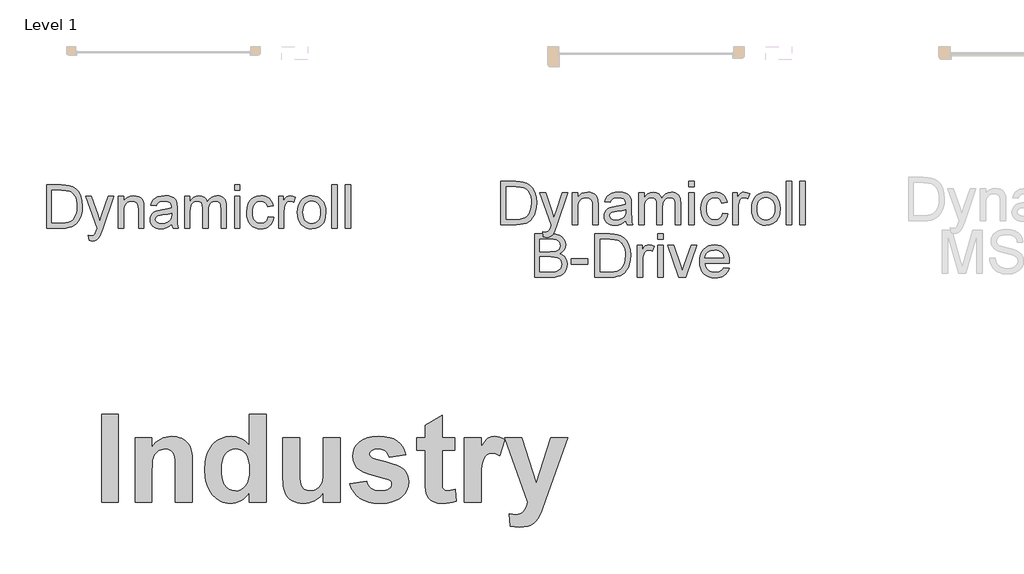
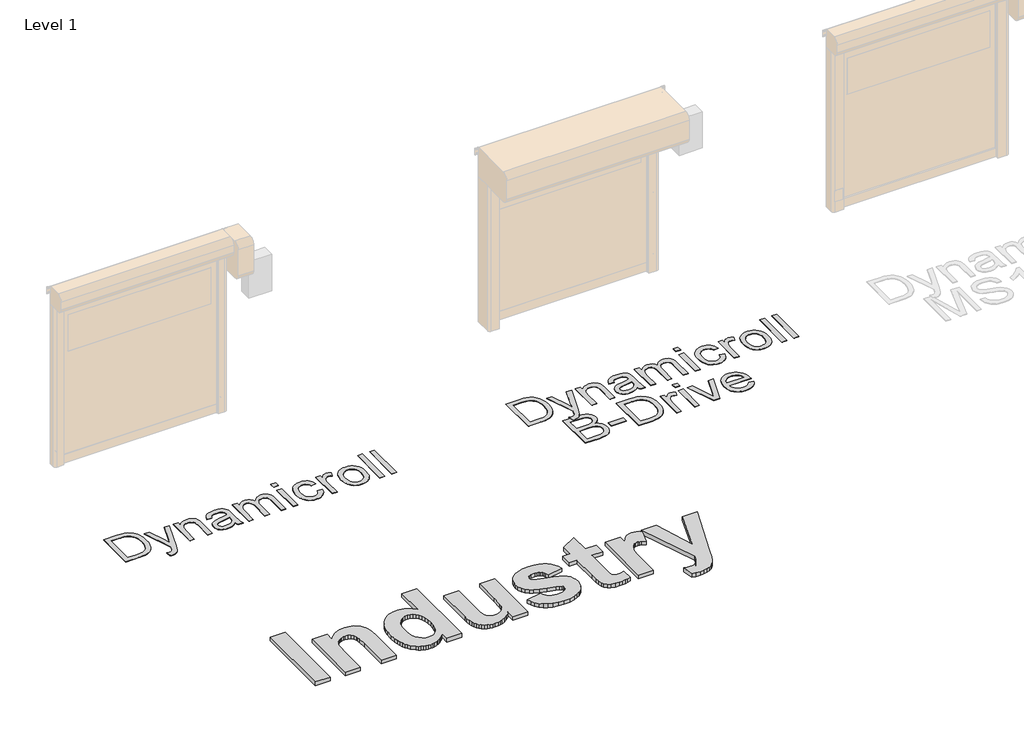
# One storey, part 6 of 18: 3 proxies.
"""IFC4 building model written with IfcOpenShell, lengths in millimetres."""

import ifcopenshell
import ifcopenshell.guid

model = None  # the IFC model being written
_history = None  # IfcOwnerHistory: only IFC2X3 demands one
_inside = {}  # id of a spatial element -> (the spatial element, [elements in it])
_under = {}  # id of a project, library or spatial element -> (it, [spatial elements below it])
_declared = {}  # id of a project -> (the project, [libraries it declares])
_typed = {}  # id of a type object -> (the type object, [elements of that type])
_made_of = {}  # id of a material, layer set ... -> (it, [elements and type objects made of it])


def new_model(schema):
    """Start an empty IFC model of exactly this schema.

    Asked for "IFC4X3", IfcOpenShell would pick the latest addendum, in which some entities
    have other attributes; the version numbers below select the first issue.
    IFC2X3 requires an IfcOwnerHistory on every rooted entity: one is made here for all.
    """
    global model, _history
    if schema == "IFC4X3":
        model = ifcopenshell.file(schema_version=(4, 3, 0, 0))
    else:
        model = ifcopenshell.file(schema=schema)
    _inside.clear()
    _under.clear()
    _declared.clear()
    _typed.clear()
    _made_of.clear()
    _history = None
    if model.schema == "IFC2X3":
        org = make("IfcOrganization", Name="unknown")
        user = make(
            "IfcPersonAndOrganization",
            ThePerson=make("IfcPerson", FamilyName="unknown"),
            TheOrganization=org,
        )
        app = make(
            "IfcApplication",
            ApplicationDeveloper=org,
            Version="unknown",
            ApplicationFullName="unknown",
            ApplicationIdentifier="unknown",
        )
        _history = make(
            "IfcOwnerHistory",
            OwningUser=user,
            OwningApplication=app,
            ChangeAction="ADDED",
            CreationDate=0,
        )
    return model


def make(cls, **values):
    """One entity of the class cls with the attributes given. An attribute that is None is left unset."""
    return model.create_entity(
        cls, **{name: value for name, value in values.items() if value is not None}
    )


def rooted(cls, **values):
    """An entity with a GlobalId (a new one), such as an element, a storey or a relation."""
    return make(cls, GlobalId=ifcopenshell.guid.new(), OwnerHistory=_history, **values)


def si_unit(unit_type, name, prefix=None):
    """IfcSIUnit, for example si_unit("LENGTHUNIT", "METRE", prefix="MILLI")."""
    return make("IfcSIUnit", UnitType=unit_type, Prefix=prefix, Name=name)


def assignment(units):
    """IfcUnitAssignment: the units of a project."""
    return None if units is None else make("IfcUnitAssignment", Units=units)


def point(xyz):
    """IfcCartesianPoint."""
    return None if xyz is None else make("IfcCartesianPoint", Coordinates=xyz)


def direction(xyz):
    """IfcDirection."""
    return None if xyz is None else make("IfcDirection", DirectionRatios=xyz)


def frame(location, z_axis=None, x_axis=None):
    """IfcAxis2Placement3D, a coordinate frame: its origin and axes. An axis left out is left unset."""
    return make(
        "IfcAxis2Placement3D",
        Location=point(location),
        Axis=direction(z_axis),
        RefDirection=direction(x_axis),
    )


def origin():
    """The frame at (0, 0, 0) with its axes left unset."""
    return frame((0.0, 0.0, 0.0))


def origin_with_axes():
    """The frame at (0, 0, 0) with the z axis (0, 0, 1) and the x axis (1, 0, 0) written out."""
    return frame((0.0, 0.0, 0.0), z_axis=(0.0, 0.0, 1.0), x_axis=(1.0, 0.0, 0.0))


def place(relative_to, where):
    """IfcLocalPlacement: puts the frame where relative to a parent placement (None: the world)."""
    return make(
        "IfcLocalPlacement", PlacementRelTo=relative_to, RelativePlacement=where
    )


def context(
    kind, dimensions, precision=None, world=None, true_north=None, identifier=None
):
    """IfcGeometricRepresentationContext, for example the 3D "Model" context."""
    return make(
        "IfcGeometricRepresentationContext",
        ContextIdentifier=identifier,
        ContextType=kind,
        CoordinateSpaceDimension=dimensions,
        Precision=precision,
        WorldCoordinateSystem=world,
        TrueNorth=true_north,
    )


def project(units=None, contexts=None):
    """IfcProject with its units and contexts."""
    return rooted(
        "IfcProject",
        Name="project",
        RepresentationContexts=contexts,
        UnitsInContext=assignment(units),
    )


def spatial(cls, under=None, at=None, **own):
    """A site, building, storey or space (cls), placed at a placement, below another one or the project."""
    s = rooted(cls, ObjectPlacement=at, **own)
    if under is not None:
        _under.setdefault(under.id(), (under, []))[1].append(s)
    return s


def polyline(points):
    """IfcPolyline through the points."""
    return make("IfcPolyline", Points=[point(p) for p in points])


def outline(outer, holes=None, kind="AREA"):
    """IfcArbitraryClosedProfileDef: a profile drawn as a closed curve; with holes, ...WithVoids."""
    if holes is None:
        return make("IfcArbitraryClosedProfileDef", ProfileType=kind, OuterCurve=outer)
    return make(
        "IfcArbitraryProfileDefWithVoids",
        ProfileType=kind,
        OuterCurve=outer,
        InnerCurves=holes,
    )


def extrude(swept, where, along, depth):
    """IfcExtrudedAreaSolid: the profile swept, set in the frame where, extruded along a direction by depth."""
    return make(
        "IfcExtrudedAreaSolid",
        SweptArea=swept,
        Position=where,
        ExtrudedDirection=direction(along),
        Depth=depth,
    )


def shape(context_of_items, identifier, shape_type, items):
    """IfcShapeRepresentation: the items that make up one representation, for example the "Body"."""
    return make(
        "IfcShapeRepresentation",
        ContextOfItems=context_of_items,
        RepresentationIdentifier=identifier,
        RepresentationType=shape_type,
        Items=items,
    )


def made_of(thing, what):
    """Note that an element or type object is made of a material, layer set ...; save() writes the relation."""
    if what is not None:
        _made_of.setdefault(what.id(), (what, []))[1].append(thing)
    return thing


def element(
    cls,
    number,
    at=None,
    inside=None,
    cuts=None,
    type_object=None,
    material=None,
    context=None,
    identifier="Body",
    shape_type=None,
    held_by="IfcProductDefinitionShape",
    body=None,
    shapes=None,
    **own,
):
    """One element of the class cls, such as IfcWall. Its Tag is "e" and its number.

    at: its placement. inside: the storey or other place that contains it. cuts: it is an
    opening in that element (IfcRelVoidsElement). A single representation is given by context,
    identifier, shape_type and body (its items); several are given by shapes. held_by: the class
    of the entity that holds the representations. save() writes the other relations.
    """
    e = rooted(cls, Tag="e%d" % number, ObjectPlacement=at, **own)
    if body is not None:
        shapes = [shape(context, identifier, shape_type, body)]
    if shapes is not None:
        e.Representation = make(held_by, Representations=shapes)
    if inside is not None:
        _inside.setdefault(inside.id(), (inside, []))[1].append(e)
    if cuts is not None:
        rooted(
            "IfcRelVoidsElement", RelatingBuildingElement=cuts, RelatedOpeningElement=e
        )
    if type_object is not None:
        _typed.setdefault(type_object.id(), (type_object, []))[1].append(e)
    return made_of(e, material)


def aggregate(whole, parts):
    """IfcRelAggregates: a whole, such as a stair, and the parts it consists of."""
    return rooted("IfcRelAggregates", RelatingObject=whole, RelatedObjects=parts)


def save(model, path):
    """Write the relations noted so far, then the file.

    IfcRelAggregates (storeys below a building ...), IfcRelContainedInSpatialStructure (elements
    in a storey), IfcRelDefinesByType, IfcRelAssociatesMaterial and IfcRelDeclares: one each for
    every whole, place, type object, material and project.
    """
    for whole, parts in _under.values():
        aggregate(whole, parts)
    for where, things in _inside.values():
        rooted(
            "IfcRelContainedInSpatialStructure",
            RelatedElements=things,
            RelatingStructure=where,
        )
    for kind, things in _typed.values():
        rooted("IfcRelDefinesByType", RelatedObjects=things, RelatingType=kind)
    for what, things in _made_of.values():
        rooted("IfcRelAssociatesMaterial", RelatedObjects=things, RelatingMaterial=what)
    for by, libraries in _declared.values():
        rooted("IfcRelDeclares", RelatingContext=by, RelatedDefinitions=libraries)
    model.write(path)


model = new_model("IFC4")

# Units and contexts
model_context = context("Model", 3, world=origin())
ifc_project = project(units=[si_unit("LENGTHUNIT", "METRE", prefix="MILLI")], contexts=[model_context])

# Site, building, storey
site = spatial("IfcSite", under=ifc_project)
building = spatial("IfcBuilding", under=site)
storey = spatial("IfcBuildingStorey", under=building, Name="Level 1", Elevation=0.0)

# Proxies
placement = place(None, origin())
element("IfcBuildingElementProxy", 1, Name="1000", ObjectType="1000", at=placement, inside=storey, context=model_context, shape_type="SweptSolid", body=[
    extrude(outline(polyline([(770.1824605, 15939.6667942), (770.1824605, 16959.9261942), (964.5175843, 16959.9261942), (964.5175843, 15939.6667942), (770.1824605, 15939.6667942)])), origin_with_axes(), (0.0, 0.0, 1.0), 50.0),
    extrude(outline(polyline([(1822.8310478, 15939.6667942), (1628.495924, 15939.6667942), (1628.495924, 16322.5171097), (1625.4594377, 16422.7211579), (1621.6638298, 16456.6918485), (1616.3499787, 16479.9083168), (1600.3451655, 16511.6016426), (1576.6226162, 16535.3241919), (1546.3210132, 16550.1270627), (1510.579039, 16555.0613529), (1486.4215763, 16553.2979767), (1463.5451312, 16548.0078483), (1441.9497039, 16539.1909674), (1421.6352942, 16526.8473343), (1403.5112665, 16511.5858276), (1388.4869853, 16494.0153261), (1376.5624505, 16474.1358298), (1367.7376622, 16451.9473387), (1361.3721114, 16423.6621524), (1356.8252895, 16385.4925706), (1353.1878319, 16279.5002203), (1353.1878319, 15939.6667942), (1158.8527081, 15939.6667942), (1158.8527081, 16684.6181021), (1353.1878319, 16684.6181021), (1353.1878319, 16577.3289192), (1377.0250402, 16606.2704293), (1402.3567691, 16631.3530714), (1429.1830186, 16652.5768455), (1457.5037887, 16669.9417516), (1487.3190794, 16683.4477897), (1518.6288907, 16693.0949597), (1551.4332226, 16698.8832618), (1585.7320751, 16700.8126958), (1644.8170379, 16694.9295035), (1672.3668251, 16687.5755133), (1698.5881496, 16677.2799269), (1743.502843, 16650.5208913), (1761.31057, 16634.7216734), (1776.0185505, 16617.3093223), (1798.3177469, 16578.4359715), (1812.5829065, 16534.6915906), (1820.2690125, 16478.4849638), (1822.8310478, 16402.2248753), (1822.8310478, 15939.6667942)])), origin_with_axes(), (0.0, 0.0, 1.0), 50.0),
    extrude(outline(polyline([(2681.1445112, 15939.6667942), (2486.8093874, 15939.6667942), (2486.8093874, 16046.9559771), (2464.0752777, 16017.7060739), (2439.3959189, 15992.4573739), (2412.7713111, 15971.2098773), (2384.2014542, 15953.9635839), (2354.6036202, 15940.6236037), (2324.895081, 15931.0950464), (2295.0758365, 15925.377912), (2265.1458869, 15923.4722006), (2235.1388389, 15925.0853339), (2206.2269819, 15929.924734), (2178.410316, 15937.9904007), (2151.6888411, 15949.2823342), (2126.0625572, 15963.8005344), (2101.5314644, 15981.5450012), (2055.7548518, 16026.7127351), (2035.3238062, 16053.7999326), (2017.6169, 16083.441258), (2002.6341333, 16115.6367111), (1990.3755059, 16150.3862921), (1980.841018, 16187.6900008), (1974.0306695, 16227.5478374), (1968.5823906, 16314.9258939), (1974.0227619, 16403.7747486), (1980.8232261, 16443.9528395), (1990.3438759, 16481.3000396), (2002.5847113, 16515.8163489), (2017.5457324, 16547.5017672), (2035.2269391, 16576.3562947), (2055.6283315, 16602.3799312), (2078.1094007, 16625.4501104), (2102.0296379, 16645.4442657), (2127.3890431, 16662.3623971), (2154.1876163, 16676.2045046), (2182.4253575, 16686.9705883), (2212.1022666, 16694.660648), (2243.2183438, 16699.2746838), (2275.7735889, 16700.8126958), (2305.7509837, 16699.2193312), (2334.7004014, 16694.4392375), (2362.6218419, 16686.4724147), (2389.5153053, 16675.3188628), (2415.3807915, 16660.9785817), (2440.2183006, 16643.4515716), (2486.8093874, 16598.8373639), (2486.8093874, 16959.9261942), (2681.1445112, 16959.9261942), (2681.1445112, 15939.6667942)]), holes=[polyline([(2162.9175144, 16326.3127176), (2164.9418386, 16269.1888189), (2171.0148113, 16220.5417778), (2181.1364323, 16180.3715944), (2195.3067017, 16148.6782685), (2221.0377602, 16113.9168263), (2251.4184383, 16089.0872247), (2286.4487361, 16074.1894637), (2326.1286536, 16069.2235434), (2358.3913206, 16072.9479836), (2388.1235824, 16084.1213044), (2415.3254389, 16102.7435056), (2439.9968902, 16128.8145872), (2460.4773577, 16162.2871043), (2475.1062631, 16203.1136116), (2483.8836064, 16251.2941092), (2486.8093874, 16306.8285971), (2483.970589, 16368.2462772), (2475.4541938, 16420.4121631), (2461.2602019, 16463.3262548), (2441.3886131, 16496.9885522), (2417.073, 16522.3954025), (2389.5469353, 16540.5431527), (2358.810419, 16551.4318029), (2324.8634509, 16555.0613529), (2291.8416623, 16551.4713405), (2261.6033195, 16540.7013031), (2234.1484224, 16522.7512408), (2209.4769712, 16497.6211536), (2189.1072089, 16465.3743016), (2174.5573786, 16426.0739449), (2165.8274805, 16379.7200836), (2162.9175144, 16326.3127176)])]), origin_with_axes(), (0.0, 0.0, 1.0), 50.0),
    extrude(outline(polyline([(3345.1228509, 15939.6667942), (3345.1228509, 16048.9803013), (3324.254915, 16021.3119014), (3300.3663079, 15996.7590628), (3273.4570295, 15975.3217858), (3243.5270798, 15957.0000702), (3211.636066, 15942.3316272), (3178.8435954, 15931.854168), (3145.1496679, 15925.5676924), (3110.5542835, 15923.4722006), (3075.9035465, 15925.5281548), (3043.0557232, 15931.6960176), (3012.0108137, 15941.975789), (2982.768818, 15956.3674689), (2956.3893432, 15974.4835891), (2933.9319965, 15995.9366811), (2915.396778, 16020.7267451), (2900.7836876, 16048.8537811), (2889.7131646, 16081.5039164), (2881.8056482, 16119.8632786), (2877.0611383, 16163.9318677), (2875.479635, 16213.7096836), (2875.479635, 16684.6181021), (3069.8147588, 16684.6181021), (3069.8147588, 16340.2299465), (3072.4400543, 16212.7291516), (3080.3159407, 16146.527424), (3095.1820716, 16114.6443178), (3118.7781006, 16090.0993868), (3150.5030565, 16074.4425043), (3189.7559681, 16069.2235434), (3213.6603902, 16070.963197), (3236.2837947, 16076.1821579), (3257.6261816, 16084.8804259), (3277.6875508, 16097.0580012), (3295.5743529, 16111.8213344), (3310.3930387, 16128.2768761), (3322.1436081, 16146.4246263), (3330.8260612, 16166.264585), (3337.0809067, 16194.4232511), (3341.5486535, 16237.5271231), (3345.1228509, 16368.5704854), (3345.1228509, 16684.6181021), (3539.4579747, 16684.6181021), (3539.4579747, 15939.6667942), (3345.1228509, 15939.6667942)])), origin_with_axes(), (0.0, 0.0, 1.0), 50.0),
    extrude(outline(polyline([(3652.8201302, 16150.1965117), (3847.155254, 16182.585699), (3854.8176375, 16156.4276346), (3865.6588425, 16133.6223572), (3879.6788691, 16114.1698668), (3896.8777174, 16098.0701633), (3917.5242428, 16085.4497671), (3941.8873009, 16076.4351984), (3969.9668917, 16071.0264572), (4001.7630153, 16069.2235434), (4036.5402726, 16070.947382), (4066.7311703, 16076.1188977), (4092.3357085, 16084.7380906), (4113.3538872, 16096.8049607), (4124.4244102, 16107.2428824), (4132.3319266, 16119.3255675), (4137.0764365, 16133.053016), (4138.6579398, 16148.425228), (4135.3051528, 16168.5419498), (4125.2467919, 16184.8630637), (4102.2833642, 16198.2109514), (4061.7336199, 16210.4201568), (3957.3702181, 16235.8190996), (3874.0408099, 16260.1426201), (3811.7453955, 16283.3907184), (3770.4839747, 16305.5633945), (3733.1763122, 16338.6009981), (3706.5279818, 16377.4901639), (3690.5389836, 16422.2308919), (3685.2093175, 16472.823182), (3689.779862, 16519.1137832), (3703.4914955, 16561.5771465), (3726.344218, 16600.2132717), (3758.3380295, 16635.0221591), (3799.947381, 16663.8055189), (3851.6467234, 16684.3650616), (3913.4360568, 16696.7007872), (3985.3153811, 16700.8126958), (4053.7470283, 16697.4915389), (4112.784546, 16687.5280682), (4162.4279341, 16670.9222837), (4202.6771928, 16647.6741853), (4235.4617559, 16617.9102935), (4262.7110575, 16581.7571284), (4284.4250976, 16539.21469), (4300.6038763, 16490.2829783), (4106.2687525, 16457.893791), (4091.9719627, 16499.4556974), (4081.502411, 16516.108927), (4068.8187546, 16530.0103409), (4053.573063, 16540.9701586), (4035.4174052, 16548.7985999), (4014.3517815, 16553.4956647), (3990.3761916, 16555.0613529), (3935.0235766, 16549.7475019), (3914.2268084, 16543.1051881), (3898.0163997, 16533.8059487), (3884.1624309, 16516.3461525), (3879.5444413, 16494.3316267), (3884.1624309, 16475.2903272), (3898.0163997, 16459.1589936), (3918.0619539, 16448.5471066), (3953.4006448, 16435.9425254), (4069.957437, 16404.7552806), (4137.9699858, 16386.1409869), (4194.8645665, 16365.470739), (4240.6411792, 16342.7445367), (4275.2998237, 16317.9623803), (4300.5406161, 16289.1948355), (4318.5697536, 16255.27159), (4329.3872361, 16216.1926438), (4332.9930636, 16171.9579969), (4327.7661952, 16122.7653372), (4312.0855901, 16077.1626899), (4285.9512483, 16035.1500551), (4249.3631698, 15996.7274328), (4227.2003781, 15979.5582377), (4202.52695, 15964.6782687), (4145.6481843, 15941.7860086), (4078.7268727, 15928.0506526), (4001.7630153, 15923.4722006), (3931.2516913, 15927.2836235), (3868.5055484, 15938.7178922), (3813.5245867, 15957.7750068), (3766.3088061, 15984.4549673), (3726.7158713, 16017.6823513), (3694.6034471, 16056.3817367), (3669.9715334, 16100.5531235), (3652.8201302, 16150.1965117)])), origin_with_axes(), (0.0, 0.0, 1.0), 50.0),
    extrude(outline(polyline([(4867.414654, 16684.6181021), (4867.414654, 16538.8667593), (4721.6633112, 16538.8667593), (4721.6633112, 16219.2765752), (4722.7703635, 16142.5736658), (4726.0915204, 16106.2939804), (4733.3348054, 16091.6176299), (4746.2082422, 16079.7247252), (4763.6047783, 16071.8488389), (4784.4173615, 16069.2235434), (4822.8795215, 16073.9047931), (4875.5119508, 16087.9485423), (4883.6092477, 15949.7884152), (4847.2821172, 15938.2750713), (4808.6459919, 15930.0512542), (4767.7008718, 15925.116964), (4724.4467569, 15923.4722006), (4672.6999694, 15928.02693), (4626.2670329, 15941.6911184), (4588.3425841, 15962.5669618), (4562.1212596, 15988.7566562), (4544.8196137, 16022.7273468), (4533.6542005, 16066.9461787), (4528.9096906, 16119.7683884), (4527.3281874, 16208.3958326), (4527.3281874, 16538.8667593), (4430.1606255, 16538.8667593), (4430.1606255, 16684.6181021), (4527.3281874, 16684.6181021), (4527.3281874, 16830.369445), (4721.6633112, 16943.7316005), (4721.6633112, 16684.6181021), (4867.414654, 16684.6181021)])), origin_with_axes(), (0.0, 0.0, 1.0), 50.0),
    extrude(outline(polyline([(5175.1119334, 15939.6667942), (4980.7768096, 15939.6667942), (4980.7768096, 16684.6181021), (5175.1119334, 16684.6181021), (5175.1119334, 16580.8714865), (5216.1677587, 16641.8858833), (5235.0350929, 16662.9277845), (5252.7953748, 16677.6594877), (5289.6127713, 16695.0243937), (5331.2379378, 16700.8126958), (5361.8400264, 16698.2506604), (5391.9044038, 16690.5645545), (5421.4310702, 16677.7543779), (5450.4200254, 16659.8201306), (5393.7389476, 16474.8475062), (5346.9264504, 16498.5700555), (5324.8486645, 16504.5006929), (5303.6565205, 16506.477572), (5266.3014128, 16500.9423105), (5249.9723914, 16494.0232336), (5235.2090582, 16484.336526), (5221.9718757, 16471.0439908), (5210.2213063, 16453.3074315), (5191.1800067, 16404.5022401), (5184.1502246, 16367.7481037), (5179.1289517, 16315.1789345), (5175.1119334, 16162.5954974), (5175.1119334, 15939.6667942)])), origin_with_axes(), (0.0, 0.0, 1.0), 50.0),
    extrude(outline(polyline([(5450.4200254, 16684.6181021), (5644.7551492, 16684.6181021), (5814.7983825, 16157.2816464), (5984.8416159, 16684.6181021), (6179.1767397, 16684.6181021), (5927.148376, 15970.7907789), (5880.3358787, 15838.1975434), (5856.6449595, 15783.7305702), (5834.1559828, 15743.8134273), (5810.5915838, 15714.2709459), (5783.6743979, 15690.9279574), (5751.8229217, 15672.93045), (5713.455652, 15659.4244119), (5669.1419299, 15650.9791844), (5619.4510966, 15648.1641085), (5566.8186673, 15650.9475543), (5515.1984, 15659.2978916), (5499.0038064, 15803.2779508), (5539.6800709, 15796.2560762), (5576.1811667, 15793.9154514), (5605.7631857, 15796.4853942), (5631.2491111, 15804.1952227), (5652.6389431, 15817.0449369), (5669.9326815, 15835.0345368), (5696.8498675, 15881.7521439), (5716.6186585, 15939.6667942), (5450.4200254, 16684.6181021)])), origin_with_axes(), (0.0, 0.0, 1.0), 50.0),
])
element("IfcBuildingElementProxy", 2, Name="500mm", ObjectType="500mm", at=placement, inside=storey, context=model_context, shape_type="SweptSolid", body=[
    extrude(outline(polyline([(5402.5904997, 19157.9917402), (5402.5904997, 19660.2732909), (5575.8629195, 19660.2732909), (5627.6423103, 19658.4645378), (5665.5034989, 19653.0382784), (5705.5413228, 19639.0894194), (5739.3251526, 19617.1084702), (5757.9415144, 19599.1435661), (5774.0593444, 19578.8487427), (5787.6786424, 19556.224), (5798.7994085, 19531.269338), (5813.6066588, 19475.289961), (5818.5424089, 19411.8303169), (5815.2008142, 19357.9202762), (5805.1760298, 19310.4788272), (5789.908927, 19270.0884498), (5770.8403769, 19237.3316238), (5748.8900845, 19211.4725852), (5724.9777548, 19191.7755701), (5697.5245609, 19177.1675892), (5664.951676, 19166.5756534), (5627.1977862, 19160.1377185), (5584.201578, 19157.9917402), (5402.5904997, 19157.9917402)]), holes=[polyline([(5465.3756936, 19220.776934), (5576.4760561, 19220.776934), (5622.4306487, 19223.0455397), (5657.2874677, 19229.8513566), (5683.5910304, 19240.7958459), (5703.8858538, 19255.4804689), (5725.6981904, 19282.6577513), (5742.0842676, 19317.8364671), (5752.3389782, 19361.1699004), (5755.7572151, 19412.8113355), (5754.0825856, 19449.2623099), (5749.0586971, 19481.2373866), (5740.6855496, 19508.7365658), (5728.9631431, 19531.7598473), (5714.8418394, 19550.8283974), (5699.2720004, 19566.4633822), (5682.253626, 19578.6648017), (5663.7867163, 19587.4326559), (5627.6729671, 19594.9742368), (5574.7592735, 19597.4880971), (5465.3756936, 19597.4880971), (5465.3756936, 19220.776934)])]), origin_with_axes(), (0.0, 0.0, 1.0), 5.0),
    extrude(outline(polyline([(5897.0239012, 19016.725054), (5889.175752, 19077.1803286), (5921.0588583, 19071.6620987), (5937.8281459, 19073.3942097), (5950.8572999, 19078.5905429), (5961.0047116, 19086.8832162), (5969.1287723, 19097.9043476), (5986.2965987, 19144.1348517), (5991.201692, 19159.3406408), (5857.7831551, 19526.854754), (5924.0019142, 19526.854754), (5994.7578846, 19322.06711), (6019.4059783, 19240.1520524), (6044.054072, 19312.5021782), (6116.7720797, 19526.854754), (6182.5003295, 19526.854754), (6054.1095132, 19149.1625723), (6020.754879, 19067.2475147), (6003.679023, 19041.0972362), (5984.3345614, 19022.979048), (5961.8631029, 19012.4024406), (5935.4062561, 19008.8769048), (5917.2267541, 19010.8389421), (5897.0239012, 19016.725054)])), origin_with_axes(), (0.0, 0.0, 1.0), 5.0),
    extrude(outline(polyline([(6234.4943182, 19157.9917402), (6234.4943182, 19526.854754), (6297.279512, 19526.854754), (6297.279512, 19475.3512747), (6319.0918486, 19501.3176122), (6345.2881124, 19519.8649961), (6375.8683032, 19530.9934265), (6410.8324212, 19534.7029033), (6441.780494, 19531.713862), (6470.1227361, 19522.7467384), (6493.7591543, 19508.9205068), (6510.5897555, 19491.3541415), (6522.0094258, 19470.0936278), (6529.413051, 19445.1849511), (6532.7239889, 19384.4844219), (6532.7239889, 19157.9917402), (6469.9387951, 19157.9917402), (6469.9387951, 19376.023136), (6468.1300419, 19408.4887221), (6462.7037825, 19431.5733173), (6452.6943265, 19448.1126786), (6437.1359838, 19460.9425632), (6417.193714, 19469.1739229), (6394.0324767, 19471.9177094), (6374.9677588, 19470.3772036), (6357.2596056, 19465.755686), (6340.9080174, 19458.0531567), (6325.912994, 19447.2696157), (6313.3858456, 19432.1787897), (6304.4378825, 19411.5544054), (6299.0691046, 19385.3964627), (6297.279512, 19353.7049616), (6297.279512, 19157.9917402), (6234.4943182, 19157.9917402)])), origin_with_axes(), (0.0, 0.0, 1.0), 5.0),
    extrude(outline(polyline([(6854.4981074, 19205.0806356), (6824.5003963, 19179.3595527), (6793.6136372, 19162.5289515), (6761.1327227, 19153.2399311), (6726.3525457, 19150.143591), (6698.3973462, 19152.0059936), (6673.8833761, 19157.5932014), (6652.8106356, 19166.9052144), (6635.1791246, 19179.9420326), (6621.2570903, 19195.8759215), (6611.3127801, 19213.8791466), (6605.346194, 19233.951708), (6603.357332, 19256.0936056), (6606.3617016, 19282.1212567), (6615.3748105, 19305.7576749), (6629.2776842, 19325.9911847), (6646.9513484, 19341.8101104), (6667.7213527, 19353.7662753), (6690.9132468, 19362.4115022), (6745.2371548, 19371.8538067), (6809.432563, 19381.7866206), (6854.1302254, 19393.4362171), (6854.4981074, 19407.4157329), (6850.1754939, 19435.4360782), (6837.2076536, 19453.7688643), (6824.1325143, 19461.708984), (6808.2062896, 19467.3804981), (6767.8005838, 19471.9177094), (6730.3992477, 19468.8980114), (6704.279626, 19459.8389172), (6686.4680061, 19443.084958), (6673.9906751, 19416.9806648), (6611.2054812, 19424.828814), (6622.1039853, 19459.1644669), (6638.3674352, 19486.1424799), (6661.5133441, 19506.7745285), (6693.0592251, 19522.0722881), (6731.6408494, 19531.5452495), (6775.8939877, 19534.7029033), (6818.3383729, 19531.9131315), (6851.9842471, 19523.5438161), (6877.3527763, 19510.9591861), (6894.9651268, 19495.5234708), (6906.6453802, 19476.4395923), (6914.2176179, 19452.910473), (6917.2833012, 19397.9734284), (6917.2833012, 19319.8598181), (6920.4716118, 19210.7828065), (6925.1927641, 19183.8201219), (6932.9795997, 19157.9917402), (6870.1944058, 19157.9917402), (6860.1389646, 19179.8194052), (6854.4981074, 19205.0806356)]), holes=[polyline([(6854.4981074, 19330.6510233), (6812.3143052, 19320.1970432), (6753.2079314, 19311.3985322), (6699.1905917, 19301.2204636), (6685.1344338, 19294.2613626), (6674.7264391, 19284.6657739), (6668.2885041, 19273.1694615), (6666.1425258, 19260.5081895), (6670.8176929, 19241.8381783), (6684.8431939, 19226.5404186), (6707.9124607, 19216.3316933), (6739.7189249, 19212.9287848), (6773.4414411, 19216.6842468), (6803.2398827, 19227.9506329), (6827.397467, 19244.551308), (6844.1974115, 19264.3096368), (6851.6470219, 19284.6657739), (6854.1302254, 19312.8700602), (6854.4981074, 19330.6510233)])]), origin_with_axes(), (0.0, 0.0, 1.0), 5.0),
    extrude(outline(polyline([(7003.6129427, 19157.9917402), (7003.6129427, 19526.854754), (7066.3981366, 19526.854754), (7066.3981366, 19466.1542248), (7085.2827457, 19494.0366144), (7109.5629574, 19515.8796078), (7138.4110371, 19529.9970794), (7170.9992505, 19534.7029033), (7205.9173833, 19529.9051089), (7233.9070717, 19515.5117258), (7254.8150318, 19492.4731159), (7268.4879793, 19461.7396409), (7291.373305, 19493.6610682), (7317.4775983, 19516.4620877), (7346.800859, 19530.1426994), (7379.3430871, 19534.7029033), (7404.477858, 19532.8060117), (7426.5392814, 19527.1153371), (7445.5273573, 19517.6308794), (7461.4420857, 19504.3526386), (7474.0228836, 19487.1273306), (7483.0091677, 19465.8016712), (7488.4009382, 19440.3756604), (7490.198195, 19410.8492982), (7490.198195, 19157.9917402), (7427.4130012, 19157.9917402), (7427.4130012, 19383.8712852), (7425.9568016, 19415.1872401), (7421.5882029, 19436.2944695), (7413.4028285, 19450.7491663), (7400.4963019, 19462.1075229), (7383.8956268, 19469.4651628), (7364.6278073, 19471.9177094), (7346.8353479, 19470.3465467), (7330.6140512, 19465.6330587), (7315.9639172, 19457.7772452), (7302.8849458, 19446.7791064), (7292.1282296, 19432.3167455), (7284.4448608, 19414.0682657), (7279.8348396, 19392.033667), (7278.2981658, 19366.2129495), (7278.2981658, 19157.9917402), (7215.512972, 19157.9917402), (7215.512972, 19390.8610431), (7211.8801373, 19426.3616557), (7200.9816332, 19451.6841997), (7192.5548362, 19460.5363602), (7181.8057842, 19466.859332), (7153.3409148, 19471.9177094), (7129.1526736, 19468.5454578), (7106.8651561, 19458.4287029), (7088.4710563, 19441.8126995), (7075.9630685, 19418.9427021), (7068.7893696, 19387.21288), (7066.3981366, 19344.0174024), (7066.3981366, 19157.9917402), (7003.6129427, 19157.9917402)])), origin_with_axes(), (0.0, 0.0, 1.0), 5.0),
    extrude(outline(polyline([(7584.3759858, 19597.4880971), (7584.3759858, 19660.2732909), (7647.1611796, 19660.2732909), (7647.1611796, 19597.4880971), (7584.3759858, 19597.4880971)])), origin_with_axes(), (0.0, 0.0, 1.0), 5.0),
    extrude(outline(polyline([(7584.3759858, 19157.9917402), (7584.3759858, 19526.854754), (7647.1611796, 19526.854754), (7647.1611796, 19157.9917402), (7584.3759858, 19157.9917402)])), origin_with_axes(), (0.0, 0.0, 1.0), 5.0),
    extrude(outline(polyline([(7976.7834473, 19291.4102771), (8039.5686412, 19283.5621279), (8032.7398316, 19253.936131), (8022.0635896, 19227.7207067), (8007.539915, 19204.9158551), (7989.1688078, 19185.5215762), (7967.7243532, 19170.0437076), (7943.9806361, 19158.9880873), (7917.9376565, 19152.354715), (7889.5954145, 19150.143591), (7854.3822097, 19153.2284348), (7822.8095039, 19162.4829662), (7794.877297, 19177.9071853), (7770.585589, 19199.501092), (7750.9230628, 19226.8584833), (7736.8784012, 19259.5731561), (7728.4516043, 19297.6451105), (7725.6426719, 19341.0743465), (7730.4404663, 19396.9464245), (7744.8338494, 19445.3688921), (7755.6863682, 19466.3190053), (7769.0527474, 19484.4716825), (7784.9329868, 19499.8269237), (7803.3270866, 19512.3847289), (7844.3306006, 19529.1233597), (7888.7370231, 19534.7029033), (7916.592588, 19532.7868512), (7941.7886725, 19527.038695), (7964.3252768, 19517.4584347), (7984.2024009, 19504.0460703), (8001.0828195, 19487.1081701), (8014.6293076, 19466.9513025), (8024.841865, 19443.5754674), (8031.7204919, 19416.9806648), (7968.9352981, 19409.1325156), (7957.5462846, 19436.5243958), (7939.8113068, 19456.1600973), (7916.7113832, 19467.9783064), (7889.2275325, 19471.9177094), (7867.8942088, 19469.9786647), (7848.6532141, 19464.1615307), (7831.5045482, 19454.4663073), (7816.4482111, 19440.8929945), (7804.18931, 19423.1273598), (7795.4329521, 19400.8551707), (7790.1791374, 19374.0764271), (7788.4278658, 19342.7911291), (7790.1408163, 19311.0344823), (7795.2796679, 19283.9453383), (7803.8444206, 19261.5236971), (7815.8350744, 19243.7695587), (7830.5925074, 19230.2767201), (7847.4575976, 19220.6389783), (7866.4303451, 19214.8563332), (7887.5107498, 19212.9287848), (7920.0223211, 19217.7419076), (7946.6784374, 19232.1812759), (7957.4581463, 19243.1027726), (7966.0688842, 19256.6147717), (7976.7834473, 19291.4102771)])), origin_with_axes(), (0.0, 0.0, 1.0), 5.0),
    extrude(outline(polyline([(8094.5056858, 19157.9917402), (8094.5056858, 19526.854754), (8149.4427304, 19526.854754), (8149.4427304, 19472.2855914), (8169.7375538, 19503.923443), (8188.4382219, 19522.5627974), (8207.2002036, 19531.6678768), (8227.678968, 19534.7029033), (8258.9489376, 19529.8591236), (8290.7094165, 19515.3277848), (8269.7401428, 19459.0418396), (8247.6672231, 19468.698742), (8225.5943034, 19471.9177094), (8206.84765, 19468.8213693), (8190.0936909, 19459.5323489), (8176.5586991, 19444.7557554), (8167.4689481, 19425.196696), (8159.8353967, 19390.1252791), (8157.2908796, 19351.8655516), (8157.2908796, 19157.9917402), (8094.5056858, 19157.9917402)])), origin_with_axes(), (0.0, 0.0, 1.0), 5.0),
    extrude(outline(polyline([(8314.2538642, 19342.4232471), (8317.6491085, 19390.194257), (8327.8348412, 19431.3587194), (8344.8110624, 19465.9166344), (8368.5777722, 19493.8680018), (8392.5054303, 19511.7332712), (8418.9162919, 19524.4941779), (8447.8103569, 19532.1507219), (8479.1876254, 19534.7029033), (8513.8260145, 19531.5950668), (8545.1458014, 19522.2715575), (8573.1469862, 19506.7323753), (8597.8295688, 19484.9775202), (8617.9749402, 19457.7427563), (8632.3644911, 19425.7638474), (8640.9982217, 19389.0407937), (8643.8761319, 19347.573595), (8638.7870976, 19284.1446077), (8632.4258048, 19258.1092923), (8623.5199948, 19235.8600958), (8612.1807988, 19216.6420937), (8598.5193476, 19199.7003614), (8582.5356413, 19185.0348989), (8564.2296799, 19172.6457063), (8523.5020774, 19155.7691198), (8479.1876254, 19150.143591), (8444.0433985, 19153.2399311), (8412.4323717, 19162.5289515), (8384.3545448, 19178.0106521), (8359.809918, 19199.685033), (8339.8791444, 19227.1842121), (8325.6428777, 19260.1403075), (8317.1011176, 19298.5533192), (8314.2538642, 19342.4232471)]), holes=[polyline([(8377.0390581, 19342.5458744), (8378.8554754, 19312.092143), (8384.3047275, 19285.7234346), (8393.3868142, 19263.4397492), (8406.1017357, 19245.2410867), (8421.5681079, 19231.1044546), (8438.9045469, 19221.0068603), (8458.1110528, 19214.9483037), (8479.1876254, 19212.9287848), (8500.1568991, 19214.9598), (8519.2867629, 19221.0528455), (8536.5772166, 19231.2079214), (8552.0282604, 19245.4250277), (8564.7431819, 19263.8037991), (8573.8252687, 19286.4438702), (8579.2745207, 19313.3452411), (8581.0909381, 19344.5079117), (8579.2630244, 19373.9959529), (8573.7792834, 19399.6748826), (8564.6397151, 19421.5447008), (8551.8443194, 19439.6054075), (8536.3357941, 19453.7420396), (8519.0568366, 19463.8396339), (8500.0074471, 19469.8981905), (8479.1876254, 19471.9177094), (8458.1110528, 19469.9058547), (8438.9045469, 19463.8702908), (8421.5681079, 19453.8110175), (8406.1017357, 19439.7280348), (8393.3868142, 19421.5830218), (8384.3047275, 19399.3376574), (8378.8554754, 19372.9919416), (8377.0390581, 19342.5458744)])]), origin_with_axes(), (0.0, 0.0, 1.0), 5.0),
    extrude(outline(polyline([(8714.509475, 19157.9917402), (8714.509475, 19660.2732909), (8777.2946688, 19660.2732909), (8777.2946688, 19157.9917402), (8714.509475, 19157.9917402)])), origin_with_axes(), (0.0, 0.0, 1.0), 5.0),
    extrude(outline(polyline([(8871.4724596, 19157.9917402), (8871.4724596, 19660.2732909), (8934.2576534, 19660.2732909), (8934.2576534, 19157.9917402), (8871.4724596, 19157.9917402)])), origin_with_axes(), (0.0, 0.0, 1.0), 5.0),
    extrude(outline(polyline([(5794.9979613, 18548.117651), (5794.9979613, 19050.3992017), (5986.6644807, 19050.3992017), (6039.378905, 19046.7050533), (6080.5357032, 19035.6226082), (6112.0815843, 19016.8759549), (6135.9632571, 18990.1891818), (6151.0004337, 18958.7965849), (6156.0128259, 18925.93246), (6151.7975113, 18895.6894943), (6139.1515677, 18867.2552818), (6117.9830246, 18842.3772619), (6088.1999114, 18822.802874), (6107.1496663, 18814.7247986), (6123.777166, 18804.2248333), (6138.0824107, 18791.3029782), (6150.0654003, 18775.9592333), (6166.2981933, 18739.876141), (6171.7091243, 18697.845623), (6168.0149759, 18662.8201914), (6156.9325308, 18630.3392769), (6140.3931695, 18602.7174704), (6120.3282723, 18582.2693628), (6095.7568207, 18567.4621125), (6065.697796, 18556.7628779), (6029.1701796, 18550.2789577), (5985.1929528, 18548.117651), (5794.9979613, 18548.117651)]), holes=[polyline([(5857.7831551, 18846.3473217), (5972.4397103, 18846.3473217), (6012.5388477, 18847.6962224), (6039.3942334, 18851.7429243), (6062.8313822, 18861.0472731), (6079.6773119, 18874.9808037), (6089.840052, 18893.3289182), (6093.227632, 18915.8770188), (6090.0699782, 18937.7659975), (6080.5970168, 18956.8345476), (6065.2379435, 18971.71844), (6044.421954, 18981.0534456), (6012.4775341, 18985.9738673), (5963.7331697, 18987.6140079), (5857.7831551, 18987.6140079), (5857.7831551, 18846.3473217)]), polyline([(5857.7831551, 18610.9028448), (5986.5418534, 18610.9028448), (6033.1402395, 18613.3553914), (6054.7686351, 18618.7969793), (6072.5649266, 18627.0283389), (6087.0349518, 18638.8158912), (6098.6845483, 18654.9260569), (6106.3640849, 18674.6384005), (6108.9239305, 18697.2324863), (6105.9195608, 18723.4747353), (6096.906452, 18746.0381644), (6081.1641682, 18763.6811717), (6057.9722741, 18775.1621557), (6025.1234777, 18781.4621348), (5980.4104868, 18783.5621279), (5857.7831551, 18783.5621279), (5857.7831551, 18610.9028448)])]), origin_with_axes(), (0.0, 0.0, 1.0), 5.0),
    extrude(outline(polyline([(6218.7980197, 18697.2324863), (6218.7980197, 18760.0176802), (6415.0017505, 18760.0176802), (6415.0017505, 18697.2324863), (6218.7980197, 18697.2324863)])), origin_with_axes(), (0.0, 0.0, 1.0), 5.0),
    extrude(outline(polyline([(6493.4832428, 18548.117651), (6493.4832428, 19050.3992017), (6666.7556625, 19050.3992017), (6718.5350533, 19048.5904486), (6756.396242, 19043.1641891), (6796.4340658, 19029.2153302), (6830.2178957, 19007.2343809), (6848.8342575, 18989.2694768), (6864.9520874, 18968.9746534), (6878.5713854, 18946.3499107), (6889.6921516, 18921.3952487), (6904.4994019, 18865.4158718), (6909.435152, 18801.9562276), (6906.0935572, 18748.0461869), (6896.0687728, 18700.604738), (6880.80167, 18660.2143606), (6861.7331199, 18627.4575346), (6839.7828276, 18601.598496), (6815.8704979, 18581.9014809), (6788.417304, 18567.2935), (6755.844419, 18556.7015642), (6718.0905292, 18550.2636293), (6675.094321, 18548.117651), (6493.4832428, 18548.117651)]), holes=[polyline([(6556.2684366, 18610.9028448), (6667.3687991, 18610.9028448), (6713.3233917, 18613.1714504), (6748.1802108, 18619.9772674), (6774.4837734, 18630.9217567), (6794.7785968, 18645.6063797), (6816.5909334, 18672.7836621), (6832.9770106, 18707.9623779), (6843.2317213, 18751.2958112), (6846.6499581, 18802.9372463), (6844.9753286, 18839.3882206), (6839.9514401, 18871.3632974), (6831.5782926, 18898.8624765), (6819.8558861, 18921.8857581), (6805.7345825, 18940.9543081), (6790.1647435, 18956.5892929), (6773.1463691, 18968.7907124), (6754.6794593, 18977.5585667), (6718.5657101, 18985.1001476), (6665.6520165, 18987.6140079), (6556.2684366, 18987.6140079), (6556.2684366, 18610.9028448)])]), origin_with_axes(), (0.0, 0.0, 1.0), 5.0),
    extrude(outline(polyline([(6987.9166443, 18548.117651), (6987.9166443, 18916.9806648), (7042.8536889, 18916.9806648), (7042.8536889, 18862.4115022), (7063.1485123, 18894.0493538), (7081.8491804, 18912.6887082), (7100.6111621, 18921.7937876), (7121.0899265, 18924.828814), (7152.3598961, 18919.9850344), (7184.120375, 18905.4536956), (7163.1511013, 18849.1677504), (7141.0781816, 18858.8246527), (7119.0052619, 18862.0436202), (7100.2586086, 18858.9472801), (7083.5046494, 18849.6582597), (7069.9696576, 18834.8816662), (7060.8799067, 18815.3226068), (7053.2463553, 18780.2511899), (7050.7018381, 18741.9914624), (7050.7018381, 18548.117651), (6987.9166443, 18548.117651)])), origin_with_axes(), (0.0, 0.0, 1.0), 5.0),
    extrude(outline(polyline([(7223.3611212, 18987.6140079), (7223.3611212, 19050.3992017), (7286.146315, 19050.3992017), (7286.146315, 18987.6140079), (7223.3611212, 18987.6140079)])), origin_with_axes(), (0.0, 0.0, 1.0), 5.0),
    extrude(outline(polyline([(7223.3611212, 18548.117651), (7223.3611212, 18916.9806648), (7286.146315, 18916.9806648), (7286.146315, 18548.117651), (7223.3611212, 18548.117651)])), origin_with_axes(), (0.0, 0.0, 1.0), 5.0),
    extrude(outline(polyline([(7470.8230766, 18548.117651), (7341.0833596, 18916.9806648), (7407.5473734, 18916.9806648), (7486.1514931, 18696.006213), (7509.8185681, 18621.69405), (7532.9951338, 18691.8368837), (7612.0897628, 18916.9806648), (7678.5537766, 18916.9806648), (7550.4082149, 18548.117651), (7470.8230766, 18548.117651)])), origin_with_axes(), (0.0, 0.0, 1.0), 5.0),
    extrude(outline(polyline([(7991.7439818, 18657.9917402), (8053.3029023, 18650.143591), (8043.8644299, 18625.4878331), (8031.1226837, 18603.7598027), (8015.0776637, 18584.9594999), (7995.7293701, 18569.0869247), (7973.277072, 18556.4793021), (7947.9200391, 18547.4738575), (7919.6582712, 18542.0705907), (7888.4917685, 18540.2695017), (7849.534598, 18543.3773382), (7814.8233989, 18552.7008475), (7784.3581712, 18568.2400297), (7758.1389148, 18589.9948847), (7737.054678, 18617.3599402), (7721.9945088, 18649.7297237), (7712.9584073, 18687.1042352), (7709.9463735, 18729.4834746), (7712.9890641, 18773.2997531), (7722.1171362, 18811.9196983), (7737.3305895, 18845.3433104), (7758.6294242, 18873.5705894), (7784.7797027, 18895.9960627), (7814.5474874, 18912.0142579), (7847.9327785, 18921.625175), (7884.9355759, 18924.828814), (7920.7465888, 18921.6328392), (7953.1317007, 18912.0449147), (7982.0909115, 18896.0650405), (8007.6242212, 18873.6932167), (8028.4670355, 18845.5272514), (8043.35476, 18812.164953), (8052.2873947, 18773.6063214), (8055.2649396, 18729.8513566), (8054.8970576, 18712.9287848), (7772.7315673, 18712.9287848), (7776.3682341, 18687.8744881), (7783.5994146, 18665.9318599), (7794.4251087, 18647.1009003), (7808.8453165, 18631.3816092), (7826.0629603, 18618.9885845), (7845.2809625, 18610.136424), (7866.4993229, 18604.8251277), (7889.7180418, 18603.0546956), (7923.1339897, 18606.3349767), (7951.2769623, 18616.1758201), (7974.1469597, 18633.1903623), (7991.7439818, 18657.9917402)]), holes=[polyline([(7772.7315673, 18775.7139786), (7992.4797458, 18775.7139786), (7983.9878031, 18808.8846719), (7967.3411428, 18832.6130606), (7950.2193016, 18845.4889304), (7930.7368843, 18854.6859803), (7908.8938908, 18860.2042102), (7884.6903212, 18862.0436202), (7842.3685633, 18856.1728367), (7823.955303, 18848.8343573), (7807.3737885, 18838.5604862), (7793.4594185, 18825.8264042), (7783.0475916, 18811.1072923), (7776.1383079, 18794.4031504), (7772.7315673, 18775.7139786)])]), origin_with_axes(), (0.0, 0.0, 1.0), 5.0),
])
element("IfcBuildingElementProxy", 3, Name="500mm", ObjectType="500mm", at=placement, inside=storey, context=model_context, shape_type="SweptSolid", body=[
    extrude(outline(polyline([(132.2974666, 19116.7358376), (132.2974666, 19619.0173884), (305.5698863, 19619.0173884), (357.3492772, 19617.2086352), (395.2104658, 19611.7823758), (435.2482896, 19597.8335168), (469.0321195, 19575.8525676), (487.6484813, 19557.8876635), (503.7663112, 19537.5928401), (517.3856093, 19514.9680974), (528.5063754, 19490.0134354), (543.3136257, 19434.0340585), (548.2493758, 19370.5744143), (544.907781, 19316.6643736), (534.8829967, 19269.2229246), (519.6158939, 19228.8325473), (500.5473438, 19196.0757213), (478.5970514, 19170.2166827), (454.6847217, 19150.5196675), (427.2315278, 19135.9116866), (394.6586428, 19125.3197509), (356.9047531, 19118.8818159), (313.9085449, 19116.7358376), (132.2974666, 19116.7358376)]), holes=[polyline([(195.0826604, 19179.5210315), (306.183023, 19179.5210315), (352.1376156, 19181.7896371), (386.9944346, 19188.595454), (413.2979973, 19199.5399434), (433.5928207, 19214.2245664), (455.4051573, 19241.4018488), (471.7912345, 19276.5805645), (482.0459451, 19319.9139979), (485.464182, 19371.555433), (483.7895525, 19408.0064073), (478.765664, 19439.9814841), (470.3925165, 19467.4806632), (458.67011, 19490.5039447), (444.5488063, 19509.5724948), (428.9789673, 19525.2074796), (411.9605929, 19537.4088991), (393.4936832, 19546.1767533), (357.379934, 19553.7183342), (304.4662403, 19556.2321945), (195.0826604, 19556.2321945), (195.0826604, 19179.5210315)])]), origin_with_axes(), (0.0, 0.0, 1.0), 5.0),
    extrude(outline(polyline([(626.7308681, 18975.4691515), (618.8827189, 19035.924426), (650.7658251, 19030.4061961), (667.5351128, 19032.1383072), (680.5642668, 19037.3346404), (690.7116785, 19045.6273137), (698.8357392, 19056.6484451), (716.0035656, 19102.8789492), (720.9086589, 19118.0847383), (587.490122, 19485.5988515), (653.7088811, 19485.5988515), (724.4648515, 19280.8112075), (749.1129452, 19198.8961499), (773.7610389, 19271.2462756), (846.4790466, 19485.5988515), (912.2072964, 19485.5988515), (783.8164801, 19107.9066698), (750.4618458, 19025.9916122), (733.3859899, 18999.8413337), (714.0415283, 18981.7231454), (691.5700698, 18971.1465381), (665.113223, 18967.6210023), (646.933721, 18969.5830396), (626.7308681, 18975.4691515)])), origin_with_axes(), (0.0, 0.0, 1.0), 5.0),
    extrude(outline(polyline([(964.201285, 19116.7358376), (964.201285, 19485.5988515), (1026.9864789, 19485.5988515), (1026.9864789, 19434.0953721), (1048.7988155, 19460.0617096), (1074.9950792, 19478.6090936), (1105.5752701, 19489.7375239), (1140.5393881, 19493.4470007), (1171.4874609, 19490.4579595), (1199.8297029, 19481.4908359), (1223.4661211, 19467.6646042), (1240.2967224, 19450.0982389), (1251.7163927, 19428.8377253), (1259.1200178, 19403.9290485), (1262.4309558, 19343.2285193), (1262.4309558, 19116.7358376), (1199.6457619, 19116.7358376), (1199.6457619, 19334.7672335), (1197.8370088, 19367.2328195), (1192.4107494, 19390.3174147), (1182.4012934, 19406.8567761), (1166.8429507, 19419.6866607), (1146.9006809, 19427.9180203), (1123.7394436, 19430.6618069), (1104.6747256, 19429.121301), (1086.9665725, 19424.4997834), (1070.6149842, 19416.7972542), (1055.6199608, 19406.0137132), (1043.0928125, 19390.9228872), (1034.1448494, 19370.2985028), (1028.7760715, 19344.1405601), (1026.9864789, 19312.4490591), (1026.9864789, 19116.7358376), (964.201285, 19116.7358376)])), origin_with_axes(), (0.0, 0.0, 1.0), 5.0),
    extrude(outline(polyline([(1584.2050742, 19163.824733), (1554.2073632, 19138.1036502), (1523.320604, 19121.2730489), (1490.8396895, 19111.9840285), (1456.0595126, 19108.8876884), (1428.1043131, 19110.750091), (1403.590343, 19116.3372988), (1382.5176025, 19125.6493118), (1364.8860914, 19138.68613), (1350.9640572, 19154.6200189), (1341.019747, 19172.6232441), (1335.0531609, 19192.6958054), (1333.0642989, 19214.837703), (1336.0686685, 19240.8653542), (1345.0817774, 19264.5017724), (1358.9846511, 19284.7352821), (1376.6583153, 19300.5542079), (1397.4283196, 19312.5103727), (1420.6202137, 19321.1555996), (1474.9441217, 19330.5979042), (1539.1395298, 19340.530718), (1583.8371922, 19352.1803146), (1584.2050742, 19366.1598304), (1579.8824608, 19394.1801757), (1566.9146205, 19412.5129618), (1553.8394812, 19420.4530815), (1537.9132565, 19426.1245956), (1497.5075507, 19430.6618069), (1460.1062145, 19427.6421088), (1433.9865929, 19418.5830147), (1416.1749729, 19401.8290555), (1403.6976419, 19375.7247622), (1340.9124481, 19383.5729115), (1351.8109522, 19417.9085644), (1368.0744021, 19444.8865773), (1391.2203109, 19465.5186259), (1422.766192, 19480.8163855), (1461.3478163, 19490.2893469), (1505.6009546, 19493.4470007), (1548.0453398, 19490.6572289), (1581.6912139, 19482.2879135), (1607.0597432, 19469.7032836), (1624.6720937, 19454.2675682), (1636.3523471, 19435.1836897), (1643.9245848, 19411.6545704), (1646.9902681, 19356.7175258), (1646.9902681, 19278.6039155), (1650.1785787, 19169.526904), (1654.899731, 19142.5642194), (1662.6865665, 19116.7358376), (1599.9013727, 19116.7358376), (1589.8459315, 19138.5635027), (1584.2050742, 19163.824733)]), holes=[polyline([(1584.2050742, 19289.3951207), (1542.0212721, 19278.9411407), (1482.9148982, 19270.1426296), (1428.8975586, 19259.9645611), (1414.8414007, 19253.00546), (1404.4334059, 19243.4098713), (1397.995471, 19231.913559), (1395.8494927, 19219.252287), (1400.5246597, 19200.5822757), (1414.5501608, 19185.2845161), (1437.6194276, 19175.0757907), (1469.4258917, 19171.6728823), (1503.148408, 19175.4283443), (1532.9468496, 19186.6947304), (1557.1044339, 19203.2954054), (1573.9043784, 19223.0537342), (1581.3539888, 19243.4098713), (1583.8371922, 19271.6141576), (1584.2050742, 19289.3951207)])]), origin_with_axes(), (0.0, 0.0, 1.0), 5.0),
    extrude(outline(polyline([(1733.3199096, 19116.7358376), (1733.3199096, 19485.5988515), (1796.1051035, 19485.5988515), (1796.1051035, 19424.8983223), (1814.9897125, 19452.7807118), (1839.2699242, 19474.6237053), (1868.118004, 19488.7411768), (1900.7062174, 19493.4470007), (1935.6243501, 19488.6492064), (1963.6140386, 19474.2558233), (1984.5219987, 19451.2172133), (1998.1949461, 19420.4837383), (2021.0802719, 19452.4051656), (2047.1845652, 19475.2061851), (2076.5078259, 19488.8867968), (2109.050054, 19493.4470007), (2134.1848249, 19491.5501092), (2156.2462483, 19485.8594346), (2175.2343242, 19476.3749769), (2191.1490526, 19463.0967361), (2203.7298504, 19445.8714281), (2212.7161346, 19424.5457687), (2218.1079051, 19399.1197579), (2219.9051619, 19369.5933957), (2219.9051619, 19116.7358376), (2157.1199681, 19116.7358376), (2157.1199681, 19342.6153827), (2155.6637685, 19373.9313375), (2151.2951698, 19395.038567), (2143.1097954, 19409.4932637), (2130.2032687, 19420.8516203), (2113.6025937, 19428.2092602), (2094.3347742, 19430.6618069), (2076.5423148, 19429.0906442), (2060.3210181, 19424.3771561), (2045.670884, 19416.5213427), (2032.5919127, 19405.5232039), (2021.8351964, 19391.0608429), (2014.1518277, 19372.8123631), (2009.5418064, 19350.7777645), (2008.0051327, 19324.9570469), (2008.0051327, 19116.7358376), (1945.2199388, 19116.7358376), (1945.2199388, 19349.6051406), (1941.5871041, 19385.1057531), (1930.6886, 19410.4282971), (1922.2618031, 19419.2804576), (1911.512751, 19425.6034294), (1883.0478817, 19430.6618069), (1858.8596405, 19427.2895552), (1836.5721229, 19417.1728004), (1818.1780232, 19400.5567969), (1805.6700353, 19377.6867996), (1798.4963364, 19345.9569775), (1796.1051035, 19302.7614999), (1796.1051035, 19116.7358376), (1733.3199096, 19116.7358376)])), origin_with_axes(), (0.0, 0.0, 1.0), 5.0),
    extrude(outline(polyline([(2314.0829527, 19556.2321945), (2314.0829527, 19619.0173884), (2376.8681465, 19619.0173884), (2376.8681465, 19556.2321945), (2314.0829527, 19556.2321945)])), origin_with_axes(), (0.0, 0.0, 1.0), 5.0),
    extrude(outline(polyline([(2314.0829527, 19116.7358376), (2314.0829527, 19485.5988515), (2376.8681465, 19485.5988515), (2376.8681465, 19116.7358376), (2314.0829527, 19116.7358376)])), origin_with_axes(), (0.0, 0.0, 1.0), 5.0),
    extrude(outline(polyline([(2706.4904142, 19250.1543746), (2769.275608, 19242.3062253), (2762.4467985, 19212.6802284), (2751.7705564, 19186.4648041), (2737.2468818, 19163.6599525), (2718.8757747, 19144.2656736), (2697.4313201, 19128.7878051), (2673.687603, 19117.7321847), (2647.6446234, 19111.0988125), (2619.3023813, 19108.8876884), (2584.0891766, 19111.9725322), (2552.5164708, 19121.2270637), (2524.5842639, 19136.6512827), (2500.2925559, 19158.2451894), (2480.6300297, 19185.6025807), (2466.5853681, 19218.3172536), (2458.1585711, 19256.389208), (2455.3496388, 19299.8184439), (2460.1474332, 19355.6905219), (2474.5408162, 19404.1129895), (2485.3933351, 19425.0631027), (2498.7597142, 19443.2157799), (2514.6399537, 19458.5710211), (2533.0340535, 19471.1288263), (2574.0375675, 19487.8674571), (2618.44399, 19493.4470007), (2646.2995548, 19491.5309486), (2671.4956394, 19485.7827925), (2694.0322437, 19476.2025322), (2713.9093678, 19462.7901678), (2730.7897864, 19445.8522676), (2744.3362744, 19425.6953999), (2754.5488319, 19402.3195648), (2761.4274588, 19375.7247622), (2698.642265, 19367.876613), (2687.2532515, 19395.2684932), (2669.5182737, 19414.9041947), (2646.4183501, 19426.7224038), (2618.9344993, 19430.6618069), (2597.6011757, 19428.7227622), (2578.360181, 19422.9056281), (2561.211515, 19413.2104047), (2546.155178, 19399.6370919), (2533.8962769, 19381.8714573), (2525.139919, 19359.5992681), (2519.8861042, 19332.8205246), (2518.1348327, 19301.5352266), (2519.8477832, 19269.7785797), (2524.9866348, 19242.6894357), (2533.5513875, 19220.2677946), (2545.5420413, 19202.5136562), (2560.2994743, 19189.0208176), (2577.1645645, 19179.3830757), (2596.1373119, 19173.6004306), (2617.2177167, 19171.6728823), (2649.729288, 19176.486005), (2676.3854043, 19190.9253733), (2687.1651131, 19201.8468701), (2695.7758511, 19215.3588692), (2706.4904142, 19250.1543746)])), origin_with_axes(), (0.0, 0.0, 1.0), 5.0),
    extrude(outline(polyline([(2824.2126526, 19116.7358376), (2824.2126526, 19485.5988515), (2879.1496973, 19485.5988515), (2879.1496973, 19431.0296889), (2899.4445207, 19462.6675404), (2918.1451887, 19481.3068949), (2936.9071705, 19490.4119742), (2957.3859349, 19493.4470007), (2988.6559045, 19488.6032211), (3020.4163834, 19474.0718823), (2999.4471097, 19417.785937), (2977.37419, 19427.4428394), (2955.3012703, 19430.6618069), (2936.5546169, 19427.5654667), (2919.8006577, 19418.2764464), (2906.265666, 19403.4998529), (2897.175915, 19383.9407935), (2889.5423636, 19348.8693766), (2886.9978465, 19310.6096491), (2886.9978465, 19116.7358376), (2824.2126526, 19116.7358376)])), origin_with_axes(), (0.0, 0.0, 1.0), 5.0),
    extrude(outline(polyline([(3043.9608311, 19301.1673446), (3047.3560753, 19348.9383545), (3057.5418081, 19390.1028169), (3074.5180293, 19424.6607318), (3098.2847391, 19452.6120992), (3122.2123972, 19470.4773686), (3148.6232587, 19483.2382753), (3177.5173238, 19490.8948194), (3208.8945923, 19493.4470007), (3243.5329814, 19490.3391643), (3274.8527683, 19481.015655), (3302.8539531, 19465.4764728), (3327.5365357, 19443.7216177), (3347.6819071, 19416.4868537), (3362.071458, 19384.5079449), (3370.7051886, 19347.7848911), (3373.5830988, 19306.3176925), (3368.4940645, 19242.8887052), (3362.1327717, 19216.8533898), (3353.2269617, 19194.6041933), (3341.8877656, 19175.3861911), (3328.2263145, 19158.4444588), (3312.2426082, 19143.7789964), (3293.9366468, 19131.3898038), (3253.2090443, 19114.5132173), (3208.8945923, 19108.8876884), (3173.7503654, 19111.9840285), (3142.1393386, 19121.2730489), (3114.0615117, 19136.7547495), (3089.5168848, 19158.4291304), (3069.5861113, 19185.9283096), (3055.3498445, 19218.884405), (3046.8080845, 19257.2974166), (3043.9608311, 19301.1673446)]), holes=[polyline([(3106.7460249, 19301.2899719), (3108.5624423, 19270.8362405), (3114.0116943, 19244.4675321), (3123.0937811, 19222.1838466), (3135.8087026, 19203.9851842), (3151.2750748, 19189.8485521), (3168.6115138, 19179.7509577), (3187.8180196, 19173.6924011), (3208.8945923, 19171.6728823), (3229.863866, 19173.7038974), (3248.9937297, 19179.796943), (3266.2841835, 19189.9520189), (3281.7352273, 19204.1691252), (3294.4501488, 19222.5478965), (3303.5322355, 19245.1879676), (3308.9814876, 19272.0893385), (3310.7979049, 19303.2520092), (3308.9699913, 19332.7400504), (3303.4862503, 19358.4189801), (3294.346682, 19380.2887983), (3281.5512863, 19398.349505), (3266.042761, 19412.486137), (3248.7638035, 19422.5837314), (3229.7144139, 19428.642288), (3208.8945923, 19430.6618069), (3187.8180196, 19428.6499522), (3168.6115138, 19422.6143882), (3151.2750748, 19412.5551149), (3135.8087026, 19398.4721323), (3123.0937811, 19380.3271193), (3114.0116943, 19358.0817549), (3108.5624423, 19331.7360391), (3106.7460249, 19301.2899719)])]), origin_with_axes(), (0.0, 0.0, 1.0), 5.0),
    extrude(outline(polyline([(3444.2164419, 19116.7358376), (3444.2164419, 19619.0173884), (3507.0016357, 19619.0173884), (3507.0016357, 19116.7358376), (3444.2164419, 19116.7358376)])), origin_with_axes(), (0.0, 0.0, 1.0), 5.0),
    extrude(outline(polyline([(3601.1794265, 19116.7358376), (3601.1794265, 19619.0173884), (3663.9646203, 19619.0173884), (3663.9646203, 19116.7358376), (3601.1794265, 19116.7358376)])), origin_with_axes(), (0.0, 0.0, 1.0), 5.0),
])

save(model, "model.ifc")
